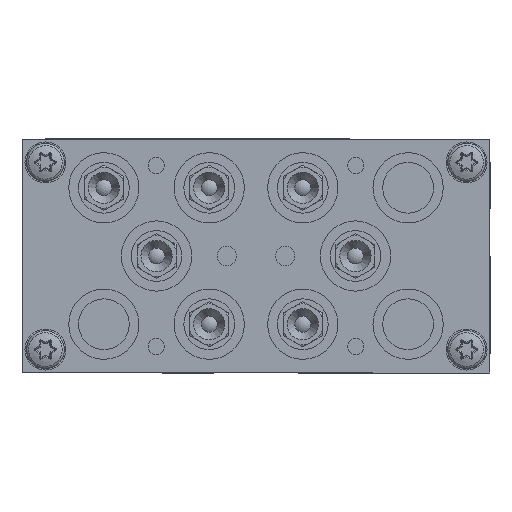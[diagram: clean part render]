
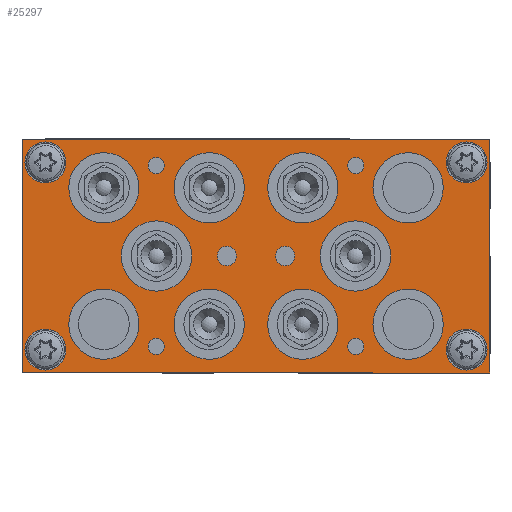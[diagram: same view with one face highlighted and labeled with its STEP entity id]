
A CAD part, left-side view. The second image highlights one B-rep face of the part: STEP entity #25297.
In plain terms, the highlighted planar face has unit normal (-1, 0, 0) as drawn and (0, 0, 1) by its records, which use the part's own axes.
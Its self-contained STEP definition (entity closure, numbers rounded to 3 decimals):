
#2381=LINE('',#60061,#3374);
#2385=LINE('',#60072,#3378);
#2389=LINE('',#60217,#3382);
#2390=LINE('',#60218,#3383);
#3374=VECTOR('',#31128,1000.);
#3378=VECTOR('',#31136,1000.);
#3382=VECTOR('',#31296,1000.);
#3383=VECTOR('',#31297,1000.);
#3768=PLANE('',#27023);
#8624=ORIENTED_EDGE('',*,*,#11318,.F.);
#8625=ORIENTED_EDGE('',*,*,#11319,.F.);
#8626=ORIENTED_EDGE('',*,*,#11320,.F.);
#8627=ORIENTED_EDGE('',*,*,#11321,.F.);
#8628=ORIENTED_EDGE('',*,*,#11322,.F.);
#8629=ORIENTED_EDGE('',*,*,#11323,.F.);
#8630=ORIENTED_EDGE('',*,*,#11324,.T.);
#8631=ORIENTED_EDGE('',*,*,#11325,.T.);
#8632=ORIENTED_EDGE('',*,*,#11326,.T.);
#8633=ORIENTED_EDGE('',*,*,#11327,.T.);
#8634=ORIENTED_EDGE('',*,*,#11328,.T.);
#8635=ORIENTED_EDGE('',*,*,#11329,.T.);
#8636=ORIENTED_EDGE('',*,*,#11330,.T.);
#8637=ORIENTED_EDGE('',*,*,#11260,.T.);
#8638=ORIENTED_EDGE('',*,*,#11331,.T.);
#8639=ORIENTED_EDGE('',*,*,#11265,.T.);
#8640=ORIENTED_EDGE('',*,*,#11332,.T.);
#8641=ORIENTED_EDGE('',*,*,#11333,.T.);
#8642=ORIENTED_EDGE('',*,*,#11334,.T.);
#8643=ORIENTED_EDGE('',*,*,#11335,.T.);
#8644=ORIENTED_EDGE('',*,*,#11336,.T.);
#8645=ORIENTED_EDGE('',*,*,#11337,.T.);
#8646=ORIENTED_EDGE('',*,*,#11338,.T.);
#8647=ORIENTED_EDGE('',*,*,#11339,.T.);
#11260=EDGE_CURVE('',#12892,#12891,#2381,.T.);
#11265=EDGE_CURVE('',#12897,#12896,#2385,.T.);
#11318=EDGE_CURVE('',#12947,#12947,#13741,.T.);
#11319=EDGE_CURVE('',#12948,#12948,#13742,.T.);
#11320=EDGE_CURVE('',#12949,#12949,#13743,.T.);
#11321=EDGE_CURVE('',#12950,#12950,#13744,.T.);
#11322=EDGE_CURVE('',#12951,#12951,#13745,.T.);
#11323=EDGE_CURVE('',#12952,#12952,#13746,.T.);
#11324=EDGE_CURVE('',#12953,#12953,#13747,.T.);
#11325=EDGE_CURVE('',#12954,#12954,#13748,.T.);
#11326=EDGE_CURVE('',#12955,#12955,#13749,.T.);
#11327=EDGE_CURVE('',#12956,#12956,#13750,.T.);
#11328=EDGE_CURVE('',#12957,#12957,#13751,.T.);
#11329=EDGE_CURVE('',#12958,#12958,#13752,.T.);
#11330=EDGE_CURVE('',#12959,#12959,#13753,.T.);
#11331=EDGE_CURVE('',#12891,#12897,#2389,.T.);
#11332=EDGE_CURVE('',#12896,#12892,#2390,.T.);
#11333=EDGE_CURVE('',#12960,#12960,#13754,.T.);
#11334=EDGE_CURVE('',#12961,#12961,#13755,.T.);
#11335=EDGE_CURVE('',#12962,#12962,#13756,.T.);
#11336=EDGE_CURVE('',#12963,#12963,#13757,.T.);
#11337=EDGE_CURVE('',#12964,#12964,#13758,.T.);
#11338=EDGE_CURVE('',#12965,#12965,#13759,.T.);
#11339=EDGE_CURVE('',#12966,#12966,#13760,.T.);
#12891=VERTEX_POINT('',#60060);
#12892=VERTEX_POINT('',#60062);
#12896=VERTEX_POINT('',#60071);
#12897=VERTEX_POINT('',#60073);
#12947=VERTEX_POINT('',#60192);
#12948=VERTEX_POINT('',#60194);
#12949=VERTEX_POINT('',#60196);
#12950=VERTEX_POINT('',#60198);
#12951=VERTEX_POINT('',#60200);
#12952=VERTEX_POINT('',#60202);
#12953=VERTEX_POINT('',#60204);
#12954=VERTEX_POINT('',#60206);
#12955=VERTEX_POINT('',#60208);
#12956=VERTEX_POINT('',#60210);
#12957=VERTEX_POINT('',#60212);
#12958=VERTEX_POINT('',#60214);
#12959=VERTEX_POINT('',#60216);
#12960=VERTEX_POINT('',#60220);
#12961=VERTEX_POINT('',#60222);
#12962=VERTEX_POINT('',#60224);
#12963=VERTEX_POINT('',#60226);
#12964=VERTEX_POINT('',#60228);
#12965=VERTEX_POINT('',#60230);
#12966=VERTEX_POINT('',#60232);
#13741=CIRCLE('',#27024,2.067);
#13742=CIRCLE('',#27025,2.067);
#13743=CIRCLE('',#27026,2.067);
#13744=CIRCLE('',#27027,2.067);
#13745=CIRCLE('',#27028,2.459);
#13746=CIRCLE('',#27029,2.459);
#13747=CIRCLE('',#27030,9.);
#13748=CIRCLE('',#27031,9.);
#13749=CIRCLE('',#27032,9.);
#13750=CIRCLE('',#27033,9.);
#13751=CIRCLE('',#27034,9.);
#13752=CIRCLE('',#27035,5.25);
#13753=CIRCLE('',#27036,5.25);
#13754=CIRCLE('',#27037,5.25);
#13755=CIRCLE('',#27038,9.);
#13756=CIRCLE('',#27039,9.);
#13757=CIRCLE('',#27040,9.);
#13758=CIRCLE('',#27041,9.);
#13759=CIRCLE('',#27042,9.);
#13760=CIRCLE('',#27043,5.25);
#15038=EDGE_LOOP('',(#8624));
#15039=EDGE_LOOP('',(#8625));
#15040=EDGE_LOOP('',(#8626));
#15041=EDGE_LOOP('',(#8627));
#15042=EDGE_LOOP('',(#8628));
#15043=EDGE_LOOP('',(#8629));
#15044=EDGE_LOOP('',(#8630));
#15045=EDGE_LOOP('',(#8631));
#15046=EDGE_LOOP('',(#8632));
#15047=EDGE_LOOP('',(#8633));
#15048=EDGE_LOOP('',(#8634));
#15049=EDGE_LOOP('',(#8635));
#15050=EDGE_LOOP('',(#8636));
#15051=EDGE_LOOP('',(#8637,#8638,#8639,#8640));
#15052=EDGE_LOOP('',(#8641));
#15053=EDGE_LOOP('',(#8642));
#15054=EDGE_LOOP('',(#8643));
#15055=EDGE_LOOP('',(#8644));
#15056=EDGE_LOOP('',(#8645));
#15057=EDGE_LOOP('',(#8646));
#15058=EDGE_LOOP('',(#8647));
#16451=FACE_BOUND('',#15038,.T.);
#16452=FACE_BOUND('',#15039,.T.);
#16453=FACE_BOUND('',#15040,.T.);
#16454=FACE_BOUND('',#15041,.T.);
#16455=FACE_BOUND('',#15042,.T.);
#16456=FACE_BOUND('',#15043,.T.);
#16457=FACE_BOUND('',#15044,.T.);
#16458=FACE_BOUND('',#15045,.T.);
#16459=FACE_BOUND('',#15046,.T.);
#16460=FACE_BOUND('',#15047,.T.);
#16461=FACE_BOUND('',#15048,.T.);
#16462=FACE_BOUND('',#15049,.T.);
#16463=FACE_BOUND('',#15050,.T.);
#16464=FACE_BOUND('',#15051,.T.);
#16465=FACE_BOUND('',#15052,.T.);
#16466=FACE_BOUND('',#15053,.T.);
#16467=FACE_BOUND('',#15054,.T.);
#16468=FACE_BOUND('',#15055,.T.);
#16469=FACE_BOUND('',#15056,.T.);
#16470=FACE_BOUND('',#15057,.T.);
#16471=FACE_BOUND('',#15058,.T.);
#25297=ADVANCED_FACE('',(#16451,#16452,#16453,#16454,#16455,#16456,#16457,
#16458,#16459,#16460,#16461,#16462,#16463,#16464,#16465,#16466,#16467,#16468,
#16469,#16470,#16471),#3768,.T.);
#27023=AXIS2_PLACEMENT_3D('',#60190,#31268,#31269);
#27024=AXIS2_PLACEMENT_3D('',#60191,#31270,#31271);
#27025=AXIS2_PLACEMENT_3D('',#60193,#31272,#31273);
#27026=AXIS2_PLACEMENT_3D('',#60195,#31274,#31275);
#27027=AXIS2_PLACEMENT_3D('',#60197,#31276,#31277);
#27028=AXIS2_PLACEMENT_3D('',#60199,#31278,#31279);
#27029=AXIS2_PLACEMENT_3D('',#60201,#31280,#31281);
#27030=AXIS2_PLACEMENT_3D('',#60203,#31282,#31283);
#27031=AXIS2_PLACEMENT_3D('',#60205,#31284,#31285);
#27032=AXIS2_PLACEMENT_3D('',#60207,#31286,#31287);
#27033=AXIS2_PLACEMENT_3D('',#60209,#31288,#31289);
#27034=AXIS2_PLACEMENT_3D('',#60211,#31290,#31291);
#27035=AXIS2_PLACEMENT_3D('',#60213,#31292,#31293);
#27036=AXIS2_PLACEMENT_3D('',#60215,#31294,#31295);
#27037=AXIS2_PLACEMENT_3D('',#60219,#31298,#31299);
#27038=AXIS2_PLACEMENT_3D('',#60221,#31300,#31301);
#27039=AXIS2_PLACEMENT_3D('',#60223,#31302,#31303);
#27040=AXIS2_PLACEMENT_3D('',#60225,#31304,#31305);
#27041=AXIS2_PLACEMENT_3D('',#60227,#31306,#31307);
#27042=AXIS2_PLACEMENT_3D('',#60229,#31308,#31309);
#27043=AXIS2_PLACEMENT_3D('',#60231,#31310,#31311);
#31128=DIRECTION('',(-1.,0.,0.));
#31136=DIRECTION('',(1.,0.,0.));
#31268=DIRECTION('',(0.,0.,1.));
#31269=DIRECTION('',(1.,0.,0.));
#31270=DIRECTION('',(0.,0.,1.));
#31271=DIRECTION('',(1.,0.,0.));
#31272=DIRECTION('',(0.,0.,1.));
#31273=DIRECTION('',(1.,0.,0.));
#31274=DIRECTION('',(0.,0.,1.));
#31275=DIRECTION('',(1.,0.,0.));
#31276=DIRECTION('',(0.,0.,1.));
#31277=DIRECTION('',(1.,0.,0.));
#31278=DIRECTION('',(0.,0.,1.));
#31279=DIRECTION('',(1.,0.,0.));
#31280=DIRECTION('',(0.,0.,1.));
#31281=DIRECTION('',(1.,0.,0.));
#31282=DIRECTION('',(0.,0.,-1.));
#31283=DIRECTION('',(1.,0.,0.));
#31284=DIRECTION('',(0.,0.,-1.));
#31285=DIRECTION('',(1.,0.,0.));
#31286=DIRECTION('',(0.,0.,-1.));
#31287=DIRECTION('',(1.,0.,0.));
#31288=DIRECTION('',(0.,0.,-1.));
#31289=DIRECTION('',(1.,0.,0.));
#31290=DIRECTION('',(0.,0.,-1.));
#31291=DIRECTION('',(1.,0.,0.));
#31292=DIRECTION('',(0.,0.,-1.));
#31293=DIRECTION('',(1.,0.,0.));
#31294=DIRECTION('',(0.,0.,-1.));
#31295=DIRECTION('',(1.,0.,0.));
#31296=DIRECTION('',(0.,-1.,0.));
#31297=DIRECTION('',(0.,1.,0.));
#31298=DIRECTION('',(0.,0.,-1.));
#31299=DIRECTION('',(1.,0.,0.));
#31300=DIRECTION('',(0.,0.,-1.));
#31301=DIRECTION('',(1.,0.,0.));
#31302=DIRECTION('',(0.,0.,-1.));
#31303=DIRECTION('',(1.,0.,0.));
#31304=DIRECTION('',(0.,0.,-1.));
#31305=DIRECTION('',(1.,0.,0.));
#31306=DIRECTION('',(0.,0.,-1.));
#31307=DIRECTION('',(1.,0.,0.));
#31308=DIRECTION('',(0.,0.,-1.));
#31309=DIRECTION('',(1.,0.,0.));
#31310=DIRECTION('',(0.,0.,-1.));
#31311=DIRECTION('',(1.,0.,0.));
#60060=CARTESIAN_POINT('',(-60.,30.,15.));
#60061=CARTESIAN_POINT('',(60.,30.,15.));
#60062=CARTESIAN_POINT('',(60.,30.,15.));
#60071=CARTESIAN_POINT('',(60.,-30.,15.));
#60072=CARTESIAN_POINT('',(-60.,-30.,15.));
#60073=CARTESIAN_POINT('',(-60.,-30.,15.));
#60190=CARTESIAN_POINT('',(-60.,30.,15.));
#60191=CARTESIAN_POINT('',(25.6,23.2,15.));
#60192=CARTESIAN_POINT('',(27.667,23.2,15.));
#60193=CARTESIAN_POINT('',(-25.6,23.2,15.));
#60194=CARTESIAN_POINT('',(-23.533,23.2,15.));
#60195=CARTESIAN_POINT('',(-25.6,-23.2,15.));
#60196=CARTESIAN_POINT('',(-23.533,-23.2,15.));
#60197=CARTESIAN_POINT('',(25.6,-23.2,15.));
#60198=CARTESIAN_POINT('',(27.667,-23.2,15.));
#60199=CARTESIAN_POINT('',(7.5,0.,15.));
#60200=CARTESIAN_POINT('',(9.959,0.,15.));
#60201=CARTESIAN_POINT('',(-7.5,0.,15.));
#60202=CARTESIAN_POINT('',(-5.041,0.,15.));
#60203=CARTESIAN_POINT('',(25.5,0.,15.));
#60204=CARTESIAN_POINT('',(34.5,0.,15.));
#60205=CARTESIAN_POINT('',(39.,17.5,15.));
#60206=CARTESIAN_POINT('',(48.,17.5,15.));
#60207=CARTESIAN_POINT('',(-39.,-17.5,15.));
#60208=CARTESIAN_POINT('',(-30.,-17.5,15.));
#60209=CARTESIAN_POINT('',(-12.,-17.5,15.));
#60210=CARTESIAN_POINT('',(-3.,-17.5,15.));
#60211=CARTESIAN_POINT('',(12.,17.5,15.));
#60212=CARTESIAN_POINT('',(21.,17.5,15.));
#60213=CARTESIAN_POINT('',(-54.,-24.,15.));
#60214=CARTESIAN_POINT('',(-48.75,-24.,15.));
#60215=CARTESIAN_POINT('',(54.,24.,15.));
#60216=CARTESIAN_POINT('',(59.25,24.,15.));
#60217=CARTESIAN_POINT('',(-60.,30.,15.));
#60218=CARTESIAN_POINT('',(60.,-30.,15.));
#60219=CARTESIAN_POINT('',(54.,-24.,15.));
#60220=CARTESIAN_POINT('',(59.25,-24.,15.));
#60221=CARTESIAN_POINT('',(-12.,17.5,15.));
#60222=CARTESIAN_POINT('',(-3.,17.5,15.));
#60223=CARTESIAN_POINT('',(12.,-17.5,15.));
#60224=CARTESIAN_POINT('',(21.,-17.5,15.));
#60225=CARTESIAN_POINT('',(-39.,17.5,15.));
#60226=CARTESIAN_POINT('',(-30.,17.5,15.));
#60227=CARTESIAN_POINT('',(39.,-17.5,15.));
#60228=CARTESIAN_POINT('',(48.,-17.5,15.));
#60229=CARTESIAN_POINT('',(-25.5,0.,15.));
#60230=CARTESIAN_POINT('',(-16.5,0.,15.));
#60231=CARTESIAN_POINT('',(-54.,24.,15.));
#60232=CARTESIAN_POINT('',(-48.75,24.,15.));
